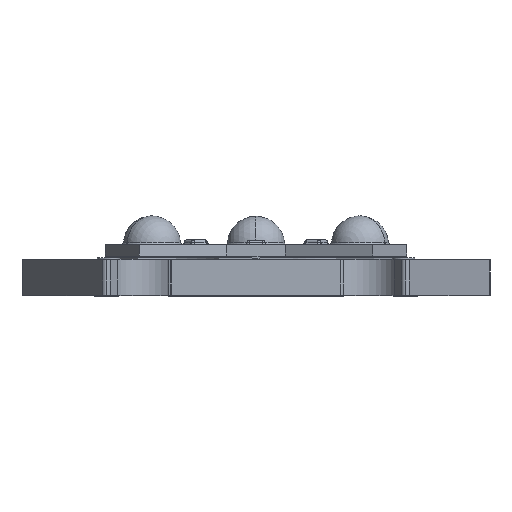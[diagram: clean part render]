
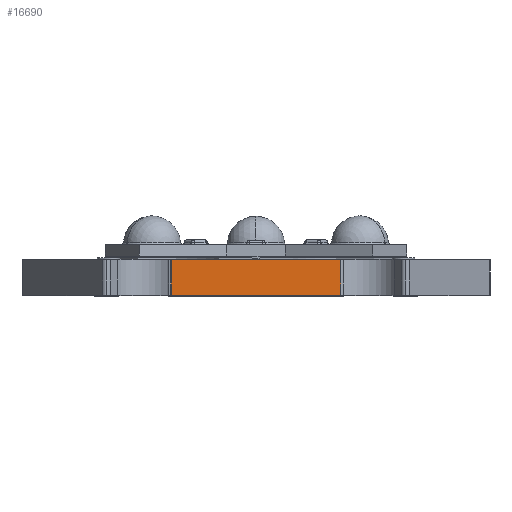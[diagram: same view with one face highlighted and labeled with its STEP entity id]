
A CAD part, top view. The second image highlights one B-rep face of the part: STEP entity #16690.
In plain terms, the highlighted planar face has unit normal (0, 0, 1).
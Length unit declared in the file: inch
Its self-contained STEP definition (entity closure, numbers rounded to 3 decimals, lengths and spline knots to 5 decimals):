
#227 = EDGE_CURVE ( 'NONE', #16596, #793, #7111, .T. ) ;
#793 = VERTEX_POINT ( 'NONE', #23709 ) ;
#1044 = ORIENTED_EDGE ( 'NONE', *, *, #6526, .T. ) ;
#1100 = PLANE ( 'NONE',  #13485 ) ;
#3189 = CARTESIAN_POINT ( 'NONE',  ( 0.26115, 0., -0.00007 ) ) ;
#3987 = DIRECTION ( 'NONE',  ( 0., 1., 0. ) ) ;
#4045 = VECTOR ( 'NONE', #5869, 39.37008 ) ;
#5869 = DIRECTION ( 'NONE',  ( 1., 0., 0. ) ) ;
#6526 = EDGE_CURVE ( 'NONE', #6623, #793, #20515, .T. ) ;
#6623 = VERTEX_POINT ( 'NONE', #6684 ) ;
#6684 = CARTESIAN_POINT ( 'NONE',  ( 0.55892, -0.06299, -0.00016 ) ) ;
#7111 = LINE ( 'NONE', #3189, #21564 ) ;
#7724 = CARTESIAN_POINT ( 'NONE',  ( 0.55892, -0.06299, -0.00016 ) ) ;
#8588 = ORIENTED_EDGE ( 'NONE', *, *, #227, .F. ) ;
#10523 = DIRECTION ( 'NONE',  ( 0., 0., 1. ) ) ;
#11163 = EDGE_CURVE ( 'NONE', #15604, #6623, #23456, .T. ) ;
#11206 = LINE ( 'NONE', #21295, #21235 ) ;
#12573 = EDGE_CURVE ( 'NONE', #15604, #16596, #11206, .T. ) ;
#13485 = AXIS2_PLACEMENT_3D ( 'NONE', #21822, #10523, #23718 ) ;
#14417 = DIRECTION ( 'NONE',  ( 1., 0., 0. ) ) ;
#15576 = ORIENTED_EDGE ( 'NONE', *, *, #11163, .T. ) ;
#15604 = VERTEX_POINT ( 'NONE', #16715 ) ;
#15895 = CARTESIAN_POINT ( 'NONE',  ( 0.26115, 0., -0.00007 ) ) ;
#16596 = VERTEX_POINT ( 'NONE', #15895 ) ;
#16690 = ADVANCED_FACE ( 'NONE', ( #18836 ), #1100, .T. ) ;
#16715 = CARTESIAN_POINT ( 'NONE',  ( 0.26115, -0.06299, -0.00007 ) ) ;
#17035 = CARTESIAN_POINT ( 'NONE',  ( 0.26115, -0.06299, -0.00007 ) ) ;
#18836 = FACE_OUTER_BOUND ( 'NONE', #24246, .T. ) ;
#19360 = DIRECTION ( 'NONE',  ( 0., 1., 0. ) ) ;
#19923 = VECTOR ( 'NONE', #3987, 39.37008 ) ;
#20515 = LINE ( 'NONE', #7724, #19923 ) ;
#21235 = VECTOR ( 'NONE', #19360, 39.37008 ) ;
#21295 = CARTESIAN_POINT ( 'NONE',  ( 0.26115, -0.06299, -0.00007 ) ) ;
#21564 = VECTOR ( 'NONE', #14417, 39.37008 ) ;
#21822 = CARTESIAN_POINT ( 'NONE',  ( 0.26115, -0.06299, -0.00007 ) ) ;
#23456 = LINE ( 'NONE', #17035, #4045 ) ;
#23580 = ORIENTED_EDGE ( 'NONE', *, *, #12573, .F. ) ;
#23709 = CARTESIAN_POINT ( 'NONE',  ( 0.55892, 0., -0.00016 ) ) ;
#23718 = DIRECTION ( 'NONE',  ( 1., 0., 0. ) ) ;
#24246 = EDGE_LOOP ( 'NONE', ( #8588, #23580, #15576, #1044 ) ) ;
